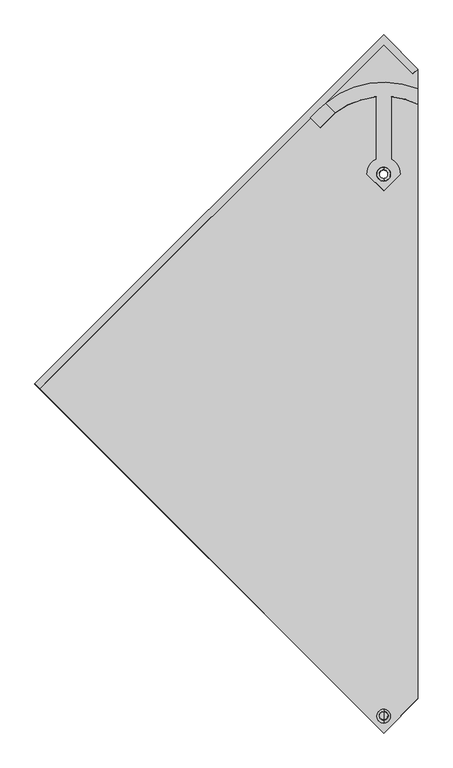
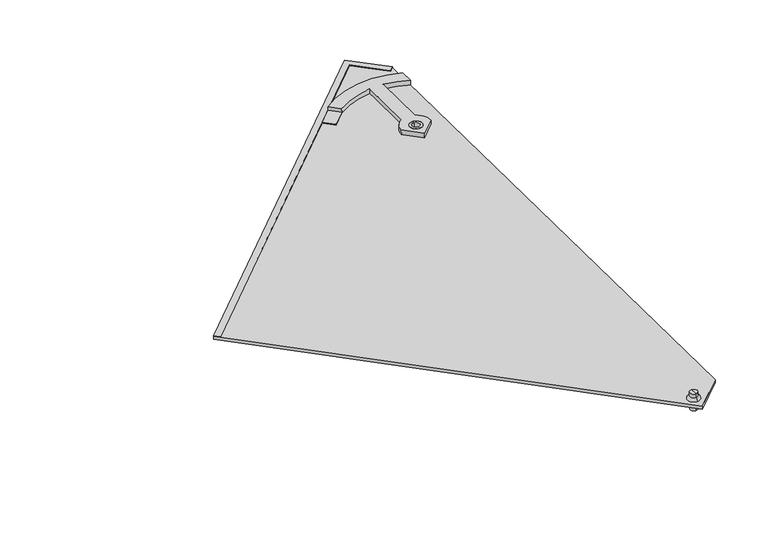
"""IFC4 building model written with IfcOpenShell, lengths in millimetres: proxy geometry, Roofing_Panels_SunStyle_Tuile-Droite : Tuile Droite - Noir."""

from ifc_helpers import new_model, si_unit, point, frame, frame_2d, origin, place, context, project, spatial, polyline, circle_curve, ellipse_curve, trimmed, segment, composite_curve, outline, extrude, source, transform, mapped, element, save
from ifc_brep_helpers import plane_surface, cylinder_surface, revolved_surface, advanced_brep


def generic_models_283bab78(model_context):
    return source(origin(), model_context, "Body", "SolidModel", [
        advanced_brep(
        [(0.0, -592.202006, 26.2215343), (0.0, -578.8689254, 25.9982384), (0.0, -579.2372345, 4.0063691), (0.0, -592.5703151, 4.229665), (0.0, -597.7012348, 26.3136327), (0.0, -573.3696966, 25.90614), (0.0, -592.7522385, 31.2274395), (0.0, -578.1513756, 30.9829114), (0.0, -585.3177786, 39.1080636), (0.0, -578.0173471, 38.9857996), (0.0, -592.6182101, 39.2303277), (0.0, -585.9037748, 4.118017)],
        [
            (0, 1, circle_curve(frame((0.0, -585.5354657, 26.1098864), z_axis=(0.0, -0.016745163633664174, -0.9998597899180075), x_axis=(0.0, 0.9998597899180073, -0.01674516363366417)), 6.6674751)),
            (1, 2),
            (2, 3, circle_curve(frame((0.0, -585.9037748, 4.118017), z_axis=(0.0, 0.016745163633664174, 0.9998597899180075), x_axis=(0.0, 0.9998597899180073, -0.01674516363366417)), 6.6674751)),
            (3, 0),
            (1, 0, circle_curve(frame((0.0, -585.5354657, 26.1098864), z_axis=(0.0, -0.016745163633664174, -0.9998597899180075), x_axis=(0.0, 0.9998597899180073, -0.01674516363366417)), 6.6674751)),
            (3, 2, circle_curve(frame((0.0, -585.9037748, 4.118017), z_axis=(0.0, 0.016745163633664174, 0.9998597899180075), x_axis=(0.0, 0.9998597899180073, -0.01674516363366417)), 6.6674751)),
            (4, 5, circle_curve(frame((0.0, -585.5354657, 26.1098864), z_axis=(0.0, -0.016745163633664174, -0.9998597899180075), x_axis=(0.0, 0.9998597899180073, -0.01674516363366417)), 12.1674751)),
            (5, 1),
            (0, 4),
            (5, 4, circle_curve(frame((0.0, -585.5354657, 26.1098864), z_axis=(0.0, -0.016745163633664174, -0.9998597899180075), x_axis=(0.0, 0.9998597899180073, -0.01674516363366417)), 12.1674751)),
            (6, 7, circle_curve(frame((0.0, -585.451807, 31.1051755), z_axis=(0.0, -0.016745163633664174, -0.9998597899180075), x_axis=(0.0, 0.9998597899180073, -0.01674516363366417)), 7.3014552)),
            (7, 5, circle_curve(frame((0.0, -578.4555735, 25.90614), z_axis=(-1.0, 0.0, 0.0), x_axis=(0.0, -1.0, 0.0)), 5.0858769)),
            (4, 6, circle_curve(frame((0.0, -592.6182101, 26.1433289), z_axis=(-1.0, 0.0, 0.0), x_axis=(0.0, 0.9994391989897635, -0.03348563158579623)), 5.0858769)),
            (7, 6, circle_curve(frame((0.0, -585.451807, 31.1051755), z_axis=(0.0, -0.016745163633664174, -0.9998597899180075), x_axis=(0.0, 0.9998597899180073, -0.01674516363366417)), 7.3014552)),
            (8, 9),
            (9, 10, circle_curve(frame((0.0, -585.3177786, 39.1080636), z_axis=(0.0, 0.016745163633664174, 0.9998597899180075), x_axis=(0.0, 0.9998597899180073, -0.01674516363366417)), 7.3014552)),
            (10, 8),
            (10, 9, circle_curve(frame((0.0, -585.3177786, 39.1080636), z_axis=(0.0, 0.016745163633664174, 0.9998597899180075), x_axis=(0.0, 0.9998597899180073, -0.01674516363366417)), 7.3014552)),
            (2, 11),
            (11, 3),
            (9, 7),
            (6, 10),
        ],
        [
            cylinder_surface(frame((0.0, -585.3177786, 39.1080636), z_axis=(0.0, 0.01674516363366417, 0.9998597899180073), x_axis=(0.0, 0.9998597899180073, -0.01674516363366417)), 6.6674751),
            plane_surface(frame((0.0, -585.5354657, 26.1098864), z_axis=(0.0, -0.016745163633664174, -0.9998597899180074), x_axis=(0.0, 0.9998597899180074, -0.016745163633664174))),
            revolved_surface(trimmed(ellipse_curve(frame((0.0, -578.4555735, 25.90614), z_axis=(1.0, 0.0, 0.0), x_axis=(0.0, -1.0, 0.0)), 5.0858769, 5.0858769), [point((0.0, -573.3696966, 25.90614))], [point((0.0, -578.1513756, 30.9829114))], True, "CARTESIAN"), (0.0, -585.3177786, 39.1080636), (0.0, 0.01674516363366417, 0.9998597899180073)),
            plane_surface(frame((0.0, -585.3177786, 39.1080636), z_axis=(0.0, 0.016745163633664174, 0.9998597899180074), x_axis=(0.0, 0.9998597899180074, -0.016745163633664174))),
            plane_surface(frame((0.0, -585.9037748, 4.118017), z_axis=(0.0, -0.016745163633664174, -0.9998597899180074), x_axis=(0.0, 0.9998597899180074, -0.016745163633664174))),
            cylinder_surface(frame((0.0, -585.3177786, 39.1080636), z_axis=(0.0, 0.01674516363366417, 0.9998597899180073), x_axis=(0.0, 0.9998597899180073, -0.01674516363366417)), 7.3014552),
        ],
        [
            (0, [[1, 2, 3, 4]]),
            (0, [[5, -4, 6, -2]]),
            (1, [[7, 8, -1, 9]]),
            (1, [[10, -9, -5, -8]]),
            (2, [[11, 12, -7, 13]]),
            (2, [[14, -13, -10, -12]]),
            (3, [[15, 16, 17]]),
            (3, [[-17, 18, -15]]),
            (4, [[-3, 19, 20]]),
            (4, [[-6, -20, -19]]),
            (5, [[-16, 21, -11, 22]]),
            (5, [[-18, -22, -14, -21]]),
        ],
    ),
        advanced_brep(
        [(0.0, 361.8961325, 20.2441668), (0.0, 377.2289335, 19.9873805), (0.0, 381.7283021, 19.9120273), (0.0, 357.3967639, 20.31952), (0.0, 361.6282103, 4.2464102), (0.0, 376.9610105, 3.9896239), (0.0, 357.1288413, 4.3217634), (0.0, 381.4603795, 3.9142707)],
        [
            (0, 1, circle_curve(frame((0.0, 369.562533, 20.1157737), z_axis=(0.0, -0.016745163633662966, -0.9998597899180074), x_axis=(0.0, 0.9998597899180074, -0.016745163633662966)), 7.6674755)),
            (1, 2),
            (2, 3, circle_curve(frame((0.0, 369.562533, 20.1157737), z_axis=(0.0, 0.016745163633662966, 0.9998597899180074), x_axis=(0.0, 0.9998597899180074, -0.016745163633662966)), 12.1674751)),
            (3, 0),
            (1, 0, circle_curve(frame((0.0, 369.562533, 20.1157737), z_axis=(0.0, -0.016745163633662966, -0.9998597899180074), x_axis=(0.0, 0.9998597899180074, -0.016745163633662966)), 7.6674755)),
            (3, 2, circle_curve(frame((0.0, 369.562533, 20.1157737), z_axis=(0.0, 0.016745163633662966, 0.9998597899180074), x_axis=(0.0, 0.9998597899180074, -0.016745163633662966)), 12.1674751)),
            (4, 5, circle_curve(frame((0.0, 369.2946104, 4.118017), z_axis=(0.0, -0.016745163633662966, -0.9998597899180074), x_axis=(0.0, 0.9998597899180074, -0.016745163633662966)), 7.6674751)),
            (5, 1),
            (0, 4),
            (5, 4, circle_curve(frame((0.0, 369.2946104, 4.118017), z_axis=(0.0, -0.016745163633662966, -0.9998597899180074), x_axis=(0.0, 0.9998597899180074, -0.016745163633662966)), 7.6674751)),
            (6, 7, circle_curve(frame((0.0, 369.2946104, 4.118017), z_axis=(0.0, -0.016745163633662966, -0.9998597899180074), x_axis=(0.0, 0.9998597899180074, -0.016745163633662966)), 12.1674751)),
            (7, 5),
            (4, 6),
            (7, 6, circle_curve(frame((0.0, 369.2946104, 4.118017), z_axis=(0.0, -0.016745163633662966, -0.9998597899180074), x_axis=(0.0, 0.9998597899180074, -0.016745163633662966)), 12.1674751)),
            (2, 7),
            (6, 3),
        ],
        [
            plane_surface(frame((0.0, 369.562533, 20.1157737), z_axis=(0.0, 0.016745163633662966, 0.9998597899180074), x_axis=(0.0, 0.9998597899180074, -0.016745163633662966))),
            revolved_surface(polyline([(0.0, 377.2289330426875, 19.987380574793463), (0.0, 376.96101042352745, 3.989623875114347)]), (0.0, 369.562533, 20.1157737), (0.0, 0.016745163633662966, 0.9998597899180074)),
            plane_surface(frame((0.0, 369.2946104, 4.118017), z_axis=(0.0, -0.016745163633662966, -0.9998597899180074), x_axis=(0.0, 0.9998597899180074, -0.016745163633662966))),
            cylinder_surface(frame((0.0, 369.562533, 20.1157737), z_axis=(0.0, 0.016745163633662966, 0.9998597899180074), x_axis=(0.0, 0.9998597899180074, -0.016745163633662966)), 12.1674751),
        ],
        [
            (0, [[1, 2, 3, 4]]),
            (0, [[5, -4, 6, -2]]),
            (1, [[7, 8, -1, 9]]),
            (1, [[10, -9, -5, -8]]),
            (2, [[11, 12, -7, 13]]),
            (2, [[14, -13, -10, -12]]),
            (3, [[-3, 15, -11, 16]]),
            (3, [[-6, -16, -14, -15]]),
        ],
    ),
        extrude(outline(polyline([(0.0, -12.0000001), (0.0, 0.0), (72.9744527, -1e-07), (73.0947702, 858.0626505), (85.09477, 858.0609678), (84.9727702, -12.0000001), (0.0, -12.0000001)])), frame((51.6046704, 546.4262155, 7.1523448), z_axis=(0.0, 0.016745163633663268, 0.9998597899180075), x_axis=(-0.7071563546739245, 0.7069580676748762, -0.011839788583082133)), (0.0, 0.0, 1.0), 1.5),
        extrude(outline(polyline([(995.0941908, 0.0), (995.1061057, -84.9727693), (210.1279844, -870.0609678), (125.1552142, -870.0609678), (125.0332144, 0.0), (995.0941908, 0.0)]), holes=[composite_curve([segment(trimmed(circle_curve(frame_2d((146.1396988, -849.0730846)), 8.0), [point((140.4824479, -843.4166269))], [point((151.7969496, -854.7295422))], True, "CARTESIAN"), True, "CONTINUOUS"), segment(trimmed(circle_curve(frame_2d((146.1396988, -849.0730846)), 8.0), [point((151.7969496, -854.7295422))], [point((140.4824479, -843.4166269))], True, "CARTESIAN"), True, "CONTINUOUS")], self_intersect=False), composite_curve([segment(trimmed(circle_curve(frame_2d((821.5432581, -173.5748135)), 12.0), [point((813.0573819, -165.0901271))], [point((830.0291344, -182.0595))], True, "CARTESIAN"), True, "CONTINUOUS"), segment(trimmed(circle_curve(frame_2d((821.5432581, -173.5748135)), 12.0), [point((830.0291344, -182.0595))], [point((813.0573819, -165.0901271))], True, "CARTESIAN"), True, "CONTINUOUS")], self_intersect=False)]), frame((-703.686858, -88.6072499, 11.7867338), z_axis=(0.0, 0.01674516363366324, 0.9998597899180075), x_axis=(0.707156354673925, 0.7069580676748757, -0.011839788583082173)), (0.0, 0.0, 1.0), 6.0),
        advanced_brep(
        [(-102.0275718, 494.9998575, 18.0150106), (-84.944396, 477.9190769, 18.3010712), (-13.3, 505.8109871, 17.8339511), (-13.3, 395.9341043, 19.6741155), (-29.3894281, 369.7299846, 20.1129693), (0.0, 340.3446773, 20.6051), (29.3894281, 369.7299846, 20.1129693), (13.3, 395.9341043, 19.6741155), (13.3, 505.8109871, 17.8339511), (60.0893569, 492.9698752, 18.0490077), (60.0893569, 519.695078, 17.6014271), (-12.0, 369.7299846, 20.1129693), (12.0, 369.7299846, 20.1129693), (-102.0275718, 494.8324058, 8.0164127), (60.0893569, 519.5276263, 7.6028292), (60.0893569, 492.8024235, 8.0504098), (13.3, 505.6435355, 7.8353532), (13.3, 395.7666527, 9.6755176), (29.3894281, 369.562533, 10.1143714), (0.0, 340.1772257, 10.6065021), (-29.3894281, 369.562533, 10.1143714), (-13.3, 395.7666527, 9.6755176), (-13.3, 505.6435355, 7.8353532), (-84.944396, 477.7516253, 8.3024733), (-111.2690438, 451.4306685, 8.7432838), (-128.9467134, 469.1058594, 8.4472683), (-114.2509691, 483.797483, 8.2012202), (-12.0, 369.562533, 10.1143714), (12.0, 369.562533, 10.1143714), (-102.0275718, 494.8742688, 10.5160622), (-128.9467134, 469.1477223, 10.9469178), (-111.2690438, 451.4725314, 11.2429333), (-84.9431983, 477.7946858, 10.8021027), (-114.2509691, 483.8393459, 10.7008697)],
        [
            (0, 1),
            (1, 2, circle_curve(frame((0.0, 365.7229584, 20.180077), z_axis=(0.0, -0.01674516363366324, -0.9998597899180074), x_axis=(1.0, 0.0, 0.0)), 140.737522)),
            (2, 3),
            (3, 4, circle_curve(frame((0.0, 369.7299846, 20.1129693), z_axis=(0.0, 0.01674516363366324, 0.9998597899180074), x_axis=(1.0, 0.0, 0.0)), 29.3894281)),
            (4, 5),
            (5, 6),
            (6, 7, circle_curve(frame((0.0, 369.7299846, 20.1129693), z_axis=(0.0, 0.01674516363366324, 0.9998597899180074), x_axis=(1.0, 0.0, 0.0)), 29.3894281)),
            (7, 8),
            (8, 9, circle_curve(frame((0.0, 365.7229584, 20.180077), z_axis=(0.0, -0.01674516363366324, -0.9998597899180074), x_axis=(1.0, 0.0, 0.0)), 140.737522)),
            (9, 10),
            (10, 0, circle_curve(frame((0.0, 369.7299846, 20.1129693), z_axis=(0.0, 0.01674516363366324, 0.9998597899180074), x_axis=(1.0, 0.0, 0.0)), 161.57527)),
            (11, 12, circle_curve(frame((0.0, 369.7299846, 20.1129693), z_axis=(0.0, -0.01674516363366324, -0.9998597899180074), x_axis=(1.0, 0.0, 0.0)), 12.0)),
            (12, 11, circle_curve(frame((0.0, 369.7299846, 20.1129693), z_axis=(0.0, -0.01674516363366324, -0.9998597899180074), x_axis=(1.0, 0.0, 0.0)), 12.0)),
            (13, 14, circle_curve(frame((0.0, 369.562533, 10.1143714), z_axis=(0.0, -0.01674516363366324, -0.9998597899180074), x_axis=(1.0, 0.0, 0.0)), 161.57527)),
            (14, 15),
            (15, 16, circle_curve(frame((0.0, 365.5555068, 10.1814791), z_axis=(0.0, 0.01674516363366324, 0.9998597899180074), x_axis=(1.0, 0.0, 0.0)), 140.737522)),
            (16, 17),
            (17, 18, circle_curve(frame((0.0, 369.562533, 10.1143714), z_axis=(0.0, -0.01674516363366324, -0.9998597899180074), x_axis=(1.0, 0.0, 0.0)), 29.3894281)),
            (18, 19),
            (19, 20),
            (20, 21, circle_curve(frame((0.0, 369.562533, 10.1143714), z_axis=(0.0, -0.01674516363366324, -0.9998597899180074), x_axis=(1.0, 0.0, 0.0)), 29.3894281)),
            (21, 22),
            (22, 23, circle_curve(frame((0.0, 365.5555068, 10.1814791), z_axis=(0.0, 0.01674516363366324, 0.9998597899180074), x_axis=(1.0, 0.0, 0.0)), 140.737522)),
            (23, 24),
            (24, 25),
            (25, 26),
            (26, 13, circle_curve(frame((0.0, 369.562533, 10.1143714), z_axis=(0.0, -0.01674516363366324, -0.9998597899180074), x_axis=(-1.0, 0.0, 0.0)), 161.57527)),
            (27, 28, circle_curve(frame((0.0, 369.562533, 10.1143714), z_axis=(0.0, 0.01674516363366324, 0.9998597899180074), x_axis=(1.0, 0.0, 0.0)), 12.0)),
            (28, 27, circle_curve(frame((0.0, 369.562533, 10.1143714), z_axis=(0.0, 0.01674516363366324, 0.9998597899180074), x_axis=(1.0, 0.0, 0.0)), 12.0)),
            (2, 22),
            (21, 3),
            (20, 4),
            (19, 5),
            (18, 6),
            (17, 7),
            (16, 8),
            (10, 14),
            (13, 29),
            (29, 0),
            (11, 27),
            (28, 12),
            (30, 31),
            (31, 32),
            (32, 29),
            (29, 33, circle_curve(frame((0.0, 369.6043959, 12.6140208), z_axis=(0.0, 0.01674516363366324, 0.9998597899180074), x_axis=(-1.0, 0.0, 0.0)), 161.57527)),
            (33, 30),
            (30, 25),
            (24, 31),
            (23, 32),
            (26, 33),
            (32, 1),
            (15, 9),
        ],
        [
            plane_surface(frame((-102.0275718, 494.9998575, 18.0150106), z_axis=(0.0, 0.01674516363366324, 0.9998597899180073), x_axis=(0.7071067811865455, -0.7070076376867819, 0.011840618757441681))),
            plane_surface(frame((-102.0275718, 494.8324058, 8.0164127), z_axis=(0.0, -0.01674516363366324, -0.9998597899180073), x_axis=(-0.7071067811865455, 0.7070076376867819, -0.011840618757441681))),
            plane_surface(frame((-13.3, 505.8109871, 17.8339511), z_axis=(-1.0000000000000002, 0.0, 0.0), x_axis=(0.0, -0.01674516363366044, -0.9998597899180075))),
            cylinder_surface(frame((0.0, 369.562533, 10.1143714), z_axis=(0.0, 0.01674516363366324, 0.9998597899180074), x_axis=(1.0, 0.0, 0.0)), 29.3894281),
            plane_surface(frame((-29.3894281, 369.7299846, 20.1129693), z_axis=(-0.7071067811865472, -0.7070076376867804, 0.011840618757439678), x_axis=(0.0, -0.016745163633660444, -0.9998597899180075))),
            plane_surface(frame((0.0, 340.3446773, 20.6051), z_axis=(0.7071067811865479, -0.7070076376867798, 0.011840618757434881), x_axis=(0.0, -0.01674516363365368, -0.9998597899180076))),
            plane_surface(frame((13.3, 395.9341043, 19.6741155), z_axis=(1.0000000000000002, 0.0, 0.0), x_axis=(0.0, -0.016745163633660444, -0.9998597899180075))),
            cylinder_surface(frame((0.0, 369.562533, 10.1143714), z_axis=(0.0, 0.01674516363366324, 0.9998597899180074), x_axis=(1.0, 0.0, 0.0)), 161.57527),
            revolved_surface(polyline([(12.0, 369.562533, 10.1143714), (12.0, 369.72998463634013, 20.112969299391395)]), (0.0, 369.562533, 10.1143714), (0.0, -0.01674516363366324, -0.9998597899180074)),
            plane_surface(frame((0.0, 340.2190886, 13.1061516), z_axis=(0.0, 0.016745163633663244, 0.9998597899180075), x_axis=(0.7071067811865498, -0.7070076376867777, 0.01184061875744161))),
            plane_surface(frame((-128.9467134, 469.1477223, 10.9469178), z_axis=(-0.7071067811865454, -0.7070076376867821, 0.011840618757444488), x_axis=(0.0, -0.016745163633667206, -0.9998597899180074))),
            plane_surface(frame((-111.2690438, 451.4725314, 11.2429333), z_axis=(0.7071067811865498, -0.7070076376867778, 0.011840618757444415), x_axis=(0.0, -0.016745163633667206, -0.9998597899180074))),
            cylinder_surface(frame((0.0, 369.562533, 10.1143714), z_axis=(0.0, 0.01674516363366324, 0.9998597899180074), x_axis=(-1.0, 0.0, 0.0)), 161.57527),
            plane_surface(frame((-114.2509691, 483.8393459, 10.7008697), z_axis=(-0.7070572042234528, 0.7070572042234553, -0.011841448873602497), x_axis=(0.0, -0.016745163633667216, -0.9998597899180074))),
            plane_surface(frame((-102.0275718, 494.9998575, 18.0150106), z_axis=(-0.7071067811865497, -0.7070076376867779, 0.01184061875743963), x_axis=(0.0, -0.01674516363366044, -0.9998597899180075))),
            revolved_surface(polyline([(140.737522, 365.5555068, 10.1814791), (140.737522, 365.72295843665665, 20.180077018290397)]), (0.0, 365.5555068, 10.1814791), (0.0, -0.01674516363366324, -0.9998597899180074)),
            revolved_surface(polyline([(140.737522, 365.5555067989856, 10.181479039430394), (140.737522, 365.722958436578, 20.18007701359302)]), (0.0, 365.5555068, 10.1814791), (0.0, -0.01674516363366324, -0.9998597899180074)),
            plane_surface(frame((60.0893569, 492.9698752, 18.0490077), z_axis=(1.0000000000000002, 0.0, 0.0), x_axis=(0.0, -0.016745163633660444, -0.9998597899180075))),
        ],
        [
            (0, [[1, 2, 3, 4, 5, 6, 7, 8, 9, 10, 11], [12, 13]]),
            (1, [[14, 15, 16, 17, 18, 19, 20, 21, 22, 23, 24, 25, 26, 27], [28, 29]]),
            (2, [[-3, 30, -22, 31]]),
            (3, [[-4, -31, -21, 32]]),
            (4, [[-5, -32, -20, 33]]),
            (5, [[-6, -33, -19, 34]]),
            (3, [[-7, -34, -18, 35]]),
            (6, [[-8, -35, -17, 36]]),
            (7, [[-11, 37, -14, 38, 39]]),
            (8, [[-12, 40, -29, 41]]),
            (8, [[-13, -41, -28, -40]]),
            (9, [[42, 43, 44, 45, 46]]),
            (10, [[-42, 47, -25, 48]]),
            (11, [[-43, -48, -24, 49]]),
            (12, [[-45, -38, -27, 50]]),
            (13, [[-46, -50, -26, -47]]),
            (14, [[-1, -39, -44, 51]]),
            (15, [[-2, -51, -49, -23, -30]]),
            (16, [[-9, -36, -16, 52]]),
            (17, [[-10, -52, -15, -37]]),
        ],
    ),
    ])


if __name__ == "__main__":
    model = new_model("IFC4")
    model_context = context("Model", 3, world=origin())
    ifc_project = project(units=[si_unit("LENGTHUNIT", "METRE", prefix="MILLI")], contexts=[model_context])
    site = spatial("IfcSite", under=ifc_project)
    building = spatial("IfcBuilding", under=site)
    placement = place(None, origin())
    generic_models_shape = generic_models_283bab78(model_context)
    element("IfcBuildingElementProxy", 1, Name="Roofing_Panels_SunStyle_Tuile-Droite : Tuile Droite - Noir", ObjectType="Roofing_Panels_SunStyle_Tuile-Droite : Tuile Droite - Noir", at=placement, inside=building, context=model_context, shape_type="MappedRepresentation", body=[
        mapped(generic_models_shape, transform((0.0, 0.0, 0.0), x_axis=(1.0, 0.0, 0.0), y_axis=(0.0, 1.0, 0.0), z_axis=(0.0, 0.0, 1.0))),
    ])
    save(model, "model.ifc")
